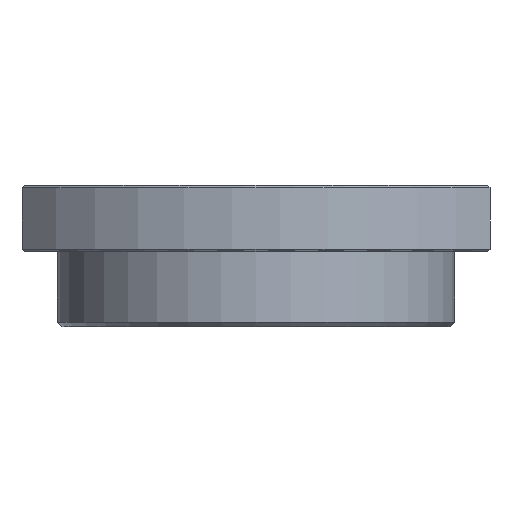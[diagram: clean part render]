
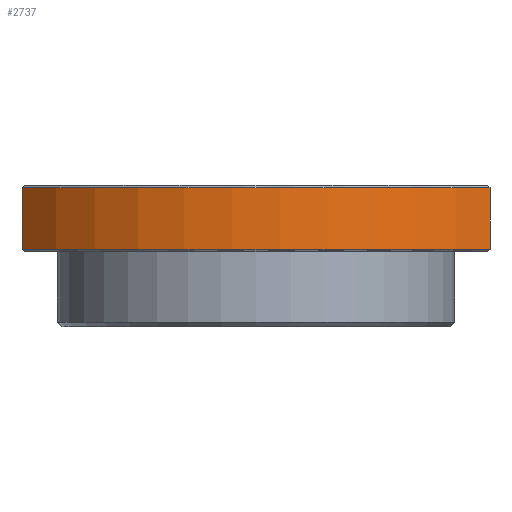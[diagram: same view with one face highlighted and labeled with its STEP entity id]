
A CAD part, left-side view. The second image highlights one B-rep face of the part: STEP entity #2737.
In plain terms, the highlighted cylindrical face has radius 69 mm (diameter 138 mm), a partial arc.
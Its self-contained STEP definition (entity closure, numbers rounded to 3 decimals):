
#65 = VERTEX_POINT ( 'NONE', #3857 ) ;
#493 = LINE ( 'NONE', #3049, #2639 ) ;
#518 = VERTEX_POINT ( 'NONE', #903 ) ;
#660 = AXIS2_PLACEMENT_3D ( 'NONE', #2437, #980, #741 ) ;
#729 = CIRCLE ( 'NONE', #660, 69. ) ;
#741 = DIRECTION ( 'NONE',  ( 0., 1., 0. ) ) ;
#828 = VERTEX_POINT ( 'NONE', #1588 ) ;
#869 = EDGE_CURVE ( 'NONE', #518, #1107, #493, .T. ) ;
#903 = CARTESIAN_POINT ( 'NONE',  ( -44.181, -53., 15.5 ) ) ;
#980 = DIRECTION ( 'NONE',  ( 0., 0., -1. ) ) ;
#1107 = VERTEX_POINT ( 'NONE', #3468 ) ;
#1216 = DIRECTION ( 'NONE',  ( 0., 0., 1. ) ) ;
#1364 = DIRECTION ( 'NONE',  ( 0., 0., -1. ) ) ;
#1413 = ORIENTED_EDGE ( 'NONE', *, *, #2525, .T. ) ;
#1542 = CARTESIAN_POINT ( 'NONE',  ( 0., 0., 1.5 ) ) ;
#1588 = CARTESIAN_POINT ( 'NONE',  ( -44.181, 53., 1.5 ) ) ;
#1625 = AXIS2_PLACEMENT_3D ( 'NONE', #3783, #1364, #1675 ) ;
#1675 = DIRECTION ( 'NONE',  ( 0., -1., 0. ) ) ;
#1753 = CIRCLE ( 'NONE', #2895, 69. ) ;
#1974 = FACE_OUTER_BOUND ( 'NONE', #3270, .T. ) ;
#2437 = CARTESIAN_POINT ( 'NONE',  ( 0., 0., 15.5 ) ) ;
#2525 = EDGE_CURVE ( 'NONE', #828, #1107, #1753, .T. ) ;
#2613 = EDGE_CURVE ( 'NONE', #828, #65, #3238, .T. ) ;
#2634 = ORIENTED_EDGE ( 'NONE', *, *, #869, .F. ) ;
#2639 = VECTOR ( 'NONE', #3104, 1000. ) ;
#2737 = ADVANCED_FACE ( 'NONE', ( #1974 ), #3340, .T. ) ;
#2778 = DIRECTION ( 'NONE',  ( 0., -1., 0. ) ) ;
#2813 = CARTESIAN_POINT ( 'NONE',  ( -44.181, 53., 16. ) ) ;
#2895 = AXIS2_PLACEMENT_3D ( 'NONE', #1542, #1216, #2778 ) ;
#2896 = ORIENTED_EDGE ( 'NONE', *, *, #3465, .T. ) ;
#3049 = CARTESIAN_POINT ( 'NONE',  ( -44.181, -53., 16. ) ) ;
#3050 = VECTOR ( 'NONE', #3387, 1000. ) ;
#3104 = DIRECTION ( 'NONE',  ( 0., 0., -1. ) ) ;
#3238 = LINE ( 'NONE', #2813, #3050 ) ;
#3270 = EDGE_LOOP ( 'NONE', ( #2634, #2896, #3696, #1413 ) ) ;
#3340 = CYLINDRICAL_SURFACE ( 'NONE', #1625, 69. ) ;
#3387 = DIRECTION ( 'NONE',  ( 0., 0., 1. ) ) ;
#3465 = EDGE_CURVE ( 'NONE', #518, #65, #729, .T. ) ;
#3468 = CARTESIAN_POINT ( 'NONE',  ( -44.181, -53., 1.5 ) ) ;
#3696 = ORIENTED_EDGE ( 'NONE', *, *, #2613, .F. ) ;
#3783 = CARTESIAN_POINT ( 'NONE',  ( 0., 0., 16. ) ) ;
#3857 = CARTESIAN_POINT ( 'NONE',  ( -44.181, 53., 15.5 ) ) ;
